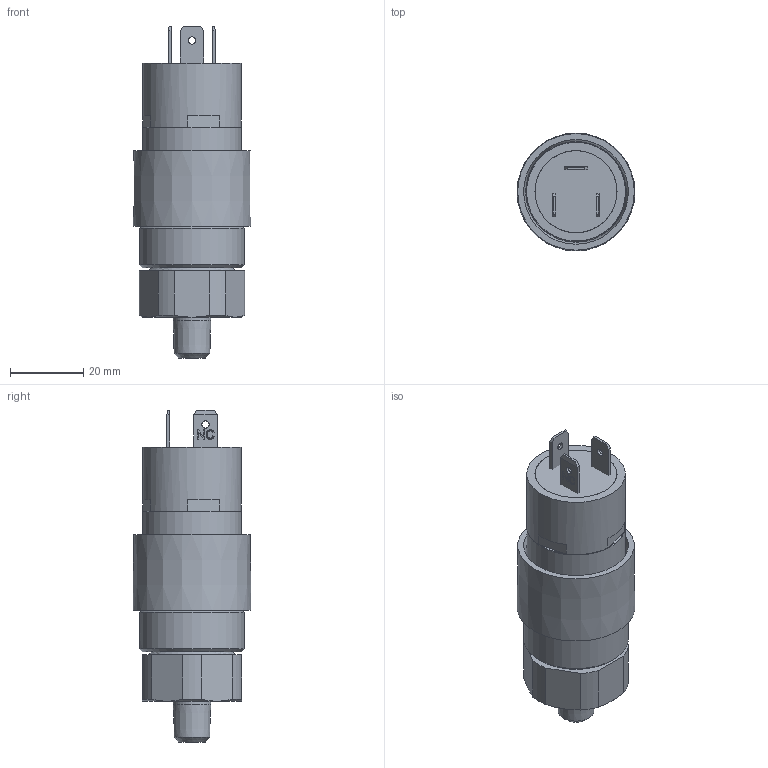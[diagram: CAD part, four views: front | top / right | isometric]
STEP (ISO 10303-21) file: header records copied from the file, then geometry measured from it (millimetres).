
FILE_DESCRIPTION (( 'STEP AP214' ), '1' );
FILE_NAME ('10-B10_B12.STEP', '2025-02-28T18:18:07', ( '' ), ( '' ), 'SwSTEP 2.0', 'SolidWorks 2023', '' );
FILE_SCHEMA (( 'AUTOMOTIVE_DESIGN' ));
Length unit declared in the file: inch
Products named in the file (1): 10-B10_B12
Bounding box: 32.11 x 32.11 x 90.45 mm (x, y, z)
Surface area: 13782.7 mm2 (no closed solid volume)
Topology: 0 solids, 19 shells, 93 faces, 333 edges, 258 vertices
Faces by surface type: plane 57, cylinder 18, cone 16, torus 1, bspline 1
Full cylindrical faces by diameter (mm): 1.981 x3, 3.175 x1, 3.556 x1, 10.287 x1, 22.352 x2, 26.873 x2, 26.924 x1, 28.575 x1
Entity records: 4455 total; most frequent: CARTESIAN_POINT 1795, DIRECTION 507, ORIENTED_EDGE 453, EDGE_CURVE 305, VERTEX_POINT 254, AXIS2_PLACEMENT_3D 170, LINE 167, VECTOR 167
